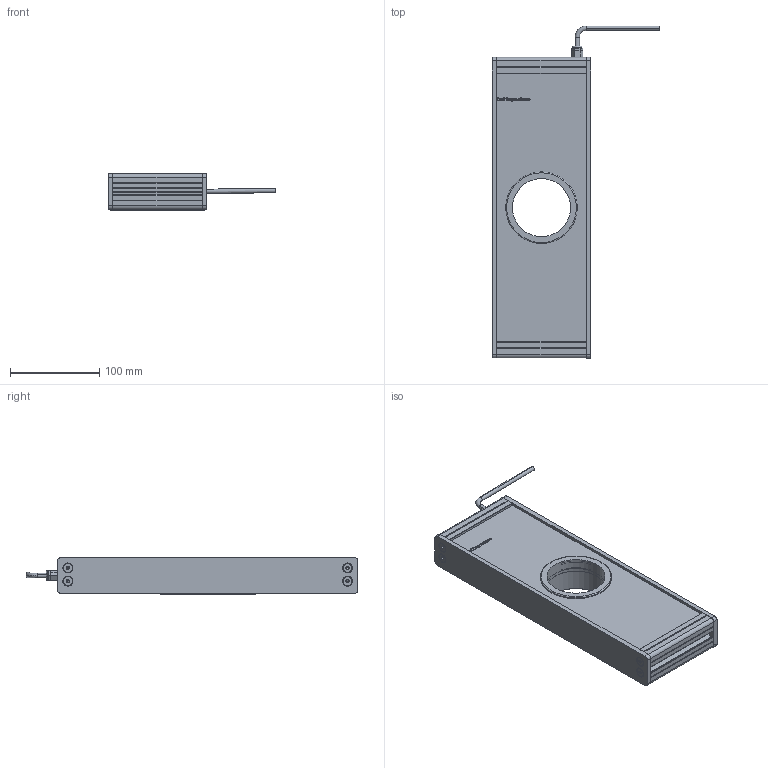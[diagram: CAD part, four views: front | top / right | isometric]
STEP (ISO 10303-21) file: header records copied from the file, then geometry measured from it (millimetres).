
FILE_DESCRIPTION (( 'STEP AP214' ), '1' );
FILE_NAME ('EFFI-FD-100T-300-M12 Ø65.STEP', '2021-07-02T11:05:55', ( '' ), ( '' ), 'SwSTEP 2.0', 'SolidWorks 2021', '' );
FILE_SCHEMA (( 'AUTOMOTIVE_DESIGN' ));
Length unit declared in the file: millimetre
Products named in the file (11): profile modif_lg 99.5 mm; Assemblage Ø65; Pièce2^EFFI-FD-XXXT-YYY-M12 Ø65; 004409; 004408; cordon_Avec cable; 000590; EFFI-FD-100T-300-M12 Ø65; 003776; bord fin modif_lg 436.5 mm
Assembly tree (20 placements, depth 3):
  EFFI-FD-100T-300-M12 Ø65
    profile modif_lg 99.5 mm
    bord fin modif_lg 436.5 mm  x2
    Pièce2^EFFI-FD-XXXT-YYY-M12 Ø65
    profile modif_lg 99.5 mm
    003776  x8
    cordon_Avec cable
    Assemblage Ø65
      004408
      004409
      000590  x3
Bounding box: 187.13 x 371.15 x 41 mm (x, y, z)
Volume: 1193766.9 mm3; surface area: 224536.2 mm2
Topology: 18 solids, 24 shells, 1002 faces, 2513 edges, 1575 vertices
Faces by surface type: plane 392, cylinder 233, bspline 180, cone 154, torus 35, sphere 8
Entity records: 25569 total; most frequent: CARTESIAN_POINT 8641, ORIENTED_EDGE 3310, DIRECTION 3055, EDGE_CURVE 1659, VERTEX_POINT 1072, AXIS2_PLACEMENT_3D 1032, LINE 991, VECTOR 991
